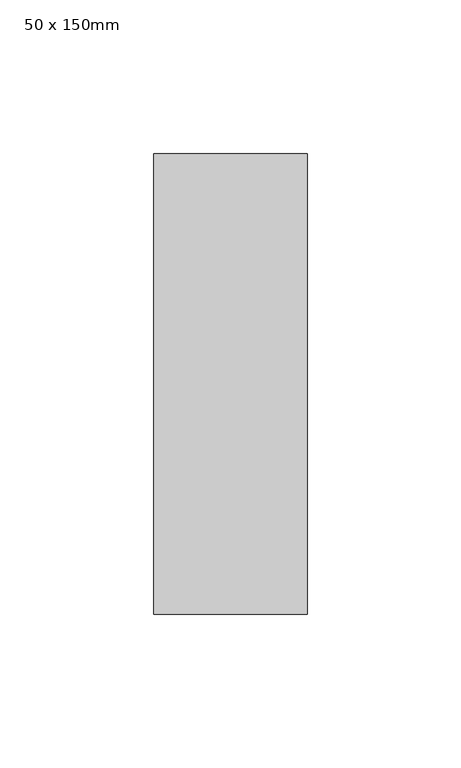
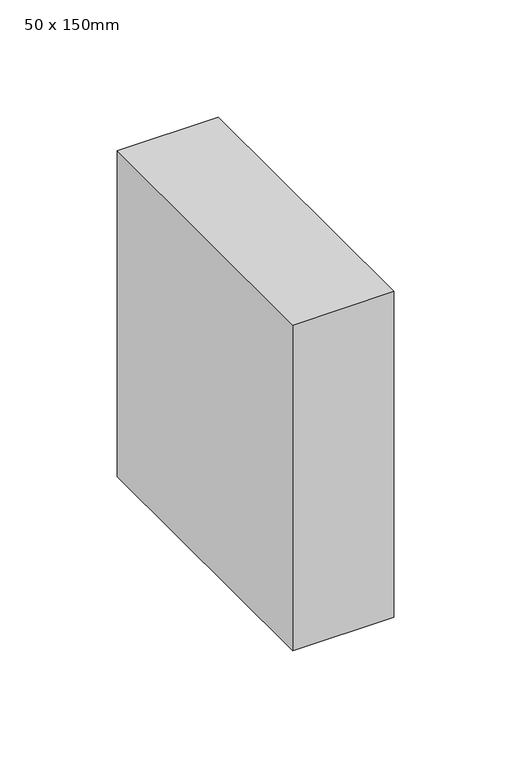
"""IFC4 building model written with IfcOpenShell, lengths in millimetres: member geometry, Прямоугольный импост : 50 x 150mm."""

from ifc_helpers import new_model, si_unit, frame, origin, place, context, project, spatial, polyline, outline, extrude, source, transform, mapped, element, save


def member_50_x_150mm_a647b75e(model_context):
    return source(origin(), model_context, "Body", "SweptSolid", [
        extrude(outline(polyline([(0.0, 75.0), (0.0, -75.0), (-50.0, -75.0), (-50.0, 75.0), (0.0, 75.0)])), frame((0.0, 0.0, -170.0), z_axis=(0.0, 0.0, 1.0), x_axis=(1.0, 0.0, 0.0)), (0.0, 0.0, 1.0), 170.0),
    ])


if __name__ == "__main__":
    model = new_model("IFC4")
    model_context = context("Model", 3, world=origin())
    ifc_project = project(units=[si_unit("LENGTHUNIT", "METRE", prefix="MILLI")], contexts=[model_context])
    site = spatial("IfcSite", under=ifc_project)
    building = spatial("IfcBuilding", under=site)
    placement = place(None, origin())
    member_50_x_150mm_shape = member_50_x_150mm_a647b75e(model_context)
    element("IfcMember", 1, ObjectType="Прямоугольный импост : 50 x 150mm", at=placement, inside=building, context=model_context, shape_type="MappedRepresentation", body=[
        mapped(member_50_x_150mm_shape, transform((0.0, 0.0, 0.0), x_axis=(1.0, 0.0, 0.0), y_axis=(0.0, 1.0, 0.0), z_axis=(0.0, 0.0, 1.0))),
    ])
    save(model, "model.ifc")
